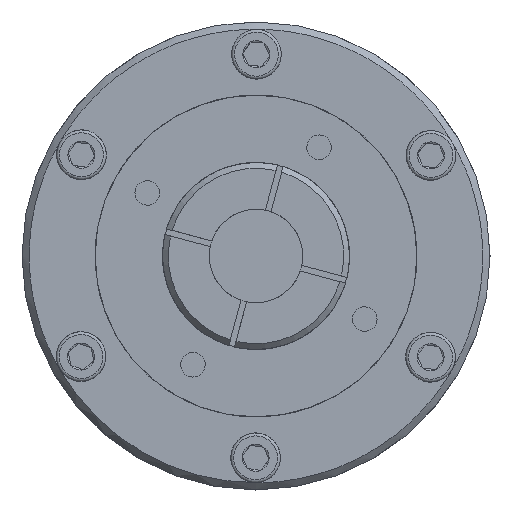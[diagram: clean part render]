
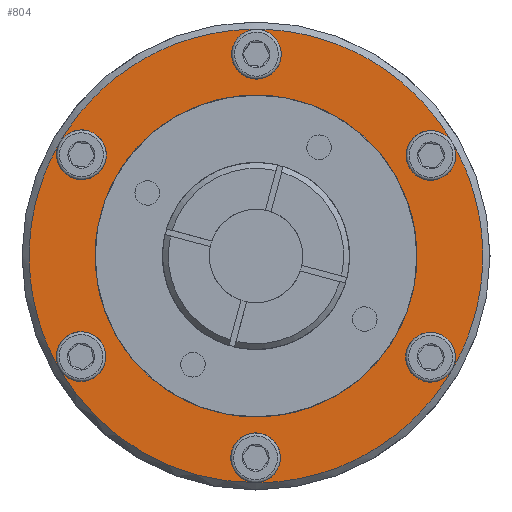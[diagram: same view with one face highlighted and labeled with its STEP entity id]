
A CAD part, left-side view. The second image highlights one B-rep face of the part: STEP entity #804.
In plain terms, the highlighted planar face has unit normal (-1, 0, 0).
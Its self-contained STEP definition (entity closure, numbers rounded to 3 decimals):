
#804 = ADVANCED_FACE( '', ( #1608, #1609 ), #1610, .F. );
#1608 = FACE_OUTER_BOUND( '', #2849, .T. );
#1609 = FACE_BOUND( '', #2850, .T. );
#1610 = PLANE( '', #2851 );
#2849 = EDGE_LOOP( '', ( #4393, #4394, #4395, #4396, #4397, #4398, #4399, #4400, #4401, #4402, #4403, #4404 ) );
#2850 = EDGE_LOOP( '', ( #4405 ) );
#2851 = AXIS2_PLACEMENT_3D( '', #4406, #4407, #4408 );
#4393 = ORIENTED_EDGE( '', *, *, #7263, .T. );
#4394 = ORIENTED_EDGE( '', *, *, #7256, .T. );
#4395 = ORIENTED_EDGE( '', *, *, #7264, .T. );
#4396 = ORIENTED_EDGE( '', *, *, #7255, .T. );
#4397 = ORIENTED_EDGE( '', *, *, #7261, .T. );
#4398 = ORIENTED_EDGE( '', *, *, #7260, .T. );
#4399 = ORIENTED_EDGE( '', *, *, #7265, .T. );
#4400 = ORIENTED_EDGE( '', *, *, #7259, .T. );
#4401 = ORIENTED_EDGE( '', *, *, #7266, .T. );
#4402 = ORIENTED_EDGE( '', *, *, #7258, .T. );
#4403 = ORIENTED_EDGE( '', *, *, #7267, .T. );
#4404 = ORIENTED_EDGE( '', *, *, #7257, .T. );
#4405 = ORIENTED_EDGE( '', *, *, #7268, .F. );
#4406 = CARTESIAN_POINT( '', ( -13.499, 40., 0. ) );
#4407 = DIRECTION( '', ( 1., 0., 0. ) );
#4408 = DIRECTION( '', ( 0., 1., 0. ) );
#7255 = EDGE_CURVE( '', #8290, #8291, #8292, .F. );
#7256 = EDGE_CURVE( '', #8293, #8290, #8294, .F. );
#7257 = EDGE_CURVE( '', #8295, #8293, #8296, .F. );
#7258 = EDGE_CURVE( '', #8297, #8295, #8298, .F. );
#7259 = EDGE_CURVE( '', #8299, #8297, #8300, .F. );
#7260 = EDGE_CURVE( '', #8291, #8299, #8301, .F. );
#7261 = EDGE_CURVE( '', #8291, #8291, #8302, .T. );
#7263 = EDGE_CURVE( '', #8293, #8293, #8305, .T. );
#7264 = EDGE_CURVE( '', #8290, #8290, #8306, .T. );
#7265 = EDGE_CURVE( '', #8299, #8299, #8307, .T. );
#7266 = EDGE_CURVE( '', #8297, #8297, #8308, .T. );
#7267 = EDGE_CURVE( '', #8295, #8295, #8309, .T. );
#7268 = EDGE_CURVE( '', #8310, #8310, #8311, .F. );
#8290 = VERTEX_POINT( '', #10110 );
#8291 = VERTEX_POINT( '', #10111 );
#8292 = CIRCLE( '', #10112, 38.75 );
#8293 = VERTEX_POINT( '', #10113 );
#8294 = CIRCLE( '', #10114, 38.75 );
#8295 = VERTEX_POINT( '', #10115 );
#8296 = CIRCLE( '', #10116, 38.75 );
#8297 = VERTEX_POINT( '', #10117 );
#8298 = CIRCLE( '', #10118, 38.75 );
#8299 = VERTEX_POINT( '', #10119 );
#8300 = CIRCLE( '', #10120, 38.75 );
#8301 = CIRCLE( '', #10121, 38.75 );
#8302 = CIRCLE( '', #10122, 4.25 );
#8305 = CIRCLE( '', #10125, 4.25 );
#8306 = CIRCLE( '', #10126, 4.25 );
#8307 = CIRCLE( '', #10127, 4.25 );
#8308 = CIRCLE( '', #10128, 4.25 );
#8309 = CIRCLE( '', #10129, 4.25 );
#8310 = VERTEX_POINT( '', #10130 );
#8311 = CIRCLE( '', #10131, 27.5 );
#10110 = CARTESIAN_POINT( '', ( -13.499, 33.558, 19.375 ) );
#10111 = CARTESIAN_POINT( '', ( -13.499, 33.558, -19.375 ) );
#10112 = AXIS2_PLACEMENT_3D( '', #12377, #12378, #12379 );
#10113 = CARTESIAN_POINT( '', ( -13.499, 0., 38.75 ) );
#10114 = AXIS2_PLACEMENT_3D( '', #12380, #12381, #12382 );
#10115 = CARTESIAN_POINT( '', ( -13.499, -33.558, 19.375 ) );
#10116 = AXIS2_PLACEMENT_3D( '', #12383, #12384, #12385 );
#10117 = CARTESIAN_POINT( '', ( -13.499, -33.558, -19.375 ) );
#10118 = AXIS2_PLACEMENT_3D( '', #12386, #12387, #12388 );
#10119 = CARTESIAN_POINT( '', ( -13.499, 0., -38.75 ) );
#10120 = AXIS2_PLACEMENT_3D( '', #12389, #12390, #12391 );
#10121 = AXIS2_PLACEMENT_3D( '', #12392, #12393, #12394 );
#10122 = AXIS2_PLACEMENT_3D( '', #12395, #12396, #12397 );
#10125 = AXIS2_PLACEMENT_3D( '', #12401, #12402, #12403 );
#10126 = AXIS2_PLACEMENT_3D( '', #12404, #12405, #12406 );
#10127 = AXIS2_PLACEMENT_3D( '', #12407, #12408, #12409 );
#10128 = AXIS2_PLACEMENT_3D( '', #12410, #12411, #12412 );
#10129 = AXIS2_PLACEMENT_3D( '', #12413, #12414, #12415 );
#10130 = CARTESIAN_POINT( '', ( -13.499, 0., -27.5 ) );
#10131 = AXIS2_PLACEMENT_3D( '', #12416, #12417, #12418 );
#12377 = CARTESIAN_POINT( '', ( -13.499, 0., 0. ) );
#12378 = DIRECTION( '', ( 1., 0., 0. ) );
#12379 = DIRECTION( '', ( 0., 0., -1. ) );
#12380 = CARTESIAN_POINT( '', ( -13.499, 0., 0. ) );
#12381 = DIRECTION( '', ( 1., 0., 0. ) );
#12382 = DIRECTION( '', ( 0., 0., -1. ) );
#12383 = CARTESIAN_POINT( '', ( -13.499, 0., 0. ) );
#12384 = DIRECTION( '', ( 1., 0., 0. ) );
#12385 = DIRECTION( '', ( 0., 0., -1. ) );
#12386 = CARTESIAN_POINT( '', ( -13.499, 0., 0. ) );
#12387 = DIRECTION( '', ( 1., 0., 0. ) );
#12388 = DIRECTION( '', ( 0., 0., -1. ) );
#12389 = CARTESIAN_POINT( '', ( -13.499, 0., 0. ) );
#12390 = DIRECTION( '', ( 1., 0., 0. ) );
#12391 = DIRECTION( '', ( 0., 0., -1. ) );
#12392 = CARTESIAN_POINT( '', ( -13.499, 0., 0. ) );
#12393 = DIRECTION( '', ( 1., 0., 0. ) );
#12394 = DIRECTION( '', ( 0., 0., -1. ) );
#12395 = CARTESIAN_POINT( '', ( -13.499, 29.878, -17.25 ) );
#12396 = DIRECTION( '', ( 1., 0., 0. ) );
#12397 = DIRECTION( '', ( 0., 0., -1. ) );
#12401 = CARTESIAN_POINT( '', ( -13.499, 0., 34.5 ) );
#12402 = DIRECTION( '', ( 1., 0., 0. ) );
#12403 = DIRECTION( '', ( 0., 0., -1. ) );
#12404 = CARTESIAN_POINT( '', ( -13.499, 29.878, 17.25 ) );
#12405 = DIRECTION( '', ( 1., 0., 0. ) );
#12406 = DIRECTION( '', ( 0., 0., -1. ) );
#12407 = CARTESIAN_POINT( '', ( -13.499, 0., -34.5 ) );
#12408 = DIRECTION( '', ( 1., 0., 0. ) );
#12409 = DIRECTION( '', ( 0., 0., -1. ) );
#12410 = CARTESIAN_POINT( '', ( -13.499, -29.878, -17.25 ) );
#12411 = DIRECTION( '', ( 1., 0., 0. ) );
#12412 = DIRECTION( '', ( 0., 0., -1. ) );
#12413 = CARTESIAN_POINT( '', ( -13.499, -29.878, 17.25 ) );
#12414 = DIRECTION( '', ( 1., 0., 0. ) );
#12415 = DIRECTION( '', ( 0., 0., -1. ) );
#12416 = CARTESIAN_POINT( '', ( -13.499, 0., 0. ) );
#12417 = DIRECTION( '', ( 1., 0., 0. ) );
#12418 = DIRECTION( '', ( 0., 0., -1. ) );
